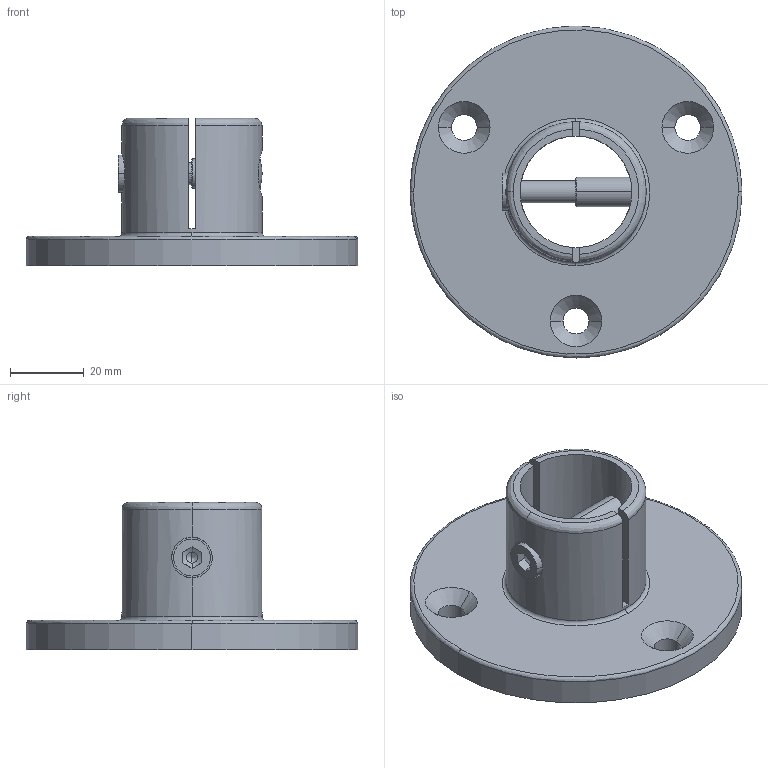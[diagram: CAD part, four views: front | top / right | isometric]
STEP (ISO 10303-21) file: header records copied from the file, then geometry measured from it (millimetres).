
FILE_DESCRIPTION (( 'STEP AP214' ), '1' );
FILE_NAME ('31000410034.STEP', '2024-09-02T09:37:37', ( '' ), ( '' ), 'SwSTEP 2.0', 'SolidWorks 2016', '' );
FILE_SCHEMA (( 'AUTOMOTIVE_DESIGN' ));
Length unit declared in the file: millimetre
Products named in the file (4): 635179_H³lsenmutter; 1709a_1-Schalig; DIN 6912  (Regelgewinde) M6 x 25; 31000410034
Assembly tree (3 placements, depth 2):
  31000410034
    1709a_1-Schalig
    635179_H³lsenmutter
    DIN 6912  (Regelgewinde) M6 x 25
Bounding box: 90 x 90 x 40 mm (x, y, z)
Volume: 57309.3 mm3; surface area: 23123.7 mm2
Topology: 3 solids, 3 shells, 82 faces, 207 edges, 129 vertices
Faces by surface type: cylinder 32, plane 23, cone 16, bspline 7, torus 2, sphere 2
Entity records: 3969 total; most frequent: CARTESIAN_POINT 943, DIRECTION 436, ORIENTED_EDGE 406, EDGE_CURVE 203, AXIS2_PLACEMENT_3D 178, VERTEX_POINT 129, CIRCLE 97, EDGE_LOOP 96
